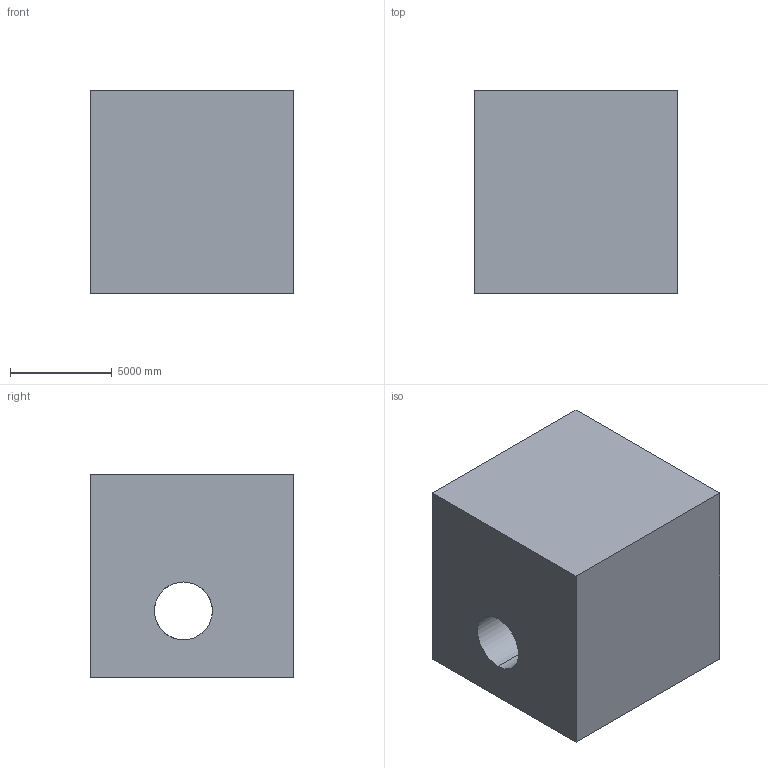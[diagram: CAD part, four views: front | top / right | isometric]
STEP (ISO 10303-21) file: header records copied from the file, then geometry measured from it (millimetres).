
FILE_DESCRIPTION (( 'STEP AP203' ), '1' );
FILE_NAME ('133.STEP', '2022-07-28T13:42:00', ( 'user' ), ( '' ), 'SwSTEP 2.0', 'SolidWorks 2021', '' );
FILE_SCHEMA (( 'CONFIG_CONTROL_DESIGN' ));
Length unit declared in the file: centimetre
Products named in the file (1): 133
Bounding box: 10000 x 10000 x 10000 mm (x, y, z)
Volume: 908959258081.3 mm3; surface area: 703302527.3 mm2
Topology: 1 solids, 1 shells, 10 faces, 24 edges, 16 vertices
Faces by surface type: plane 7, cylinder 3
Entity records: 377 total; most frequent: DIRECTION 54, CARTESIAN_POINT 51, ORIENTED_EDGE 48, EDGE_CURVE 24, AXIS2_PLACEMENT_3D 19, VERTEX_POINT 16, LINE 16, VECTOR 16
